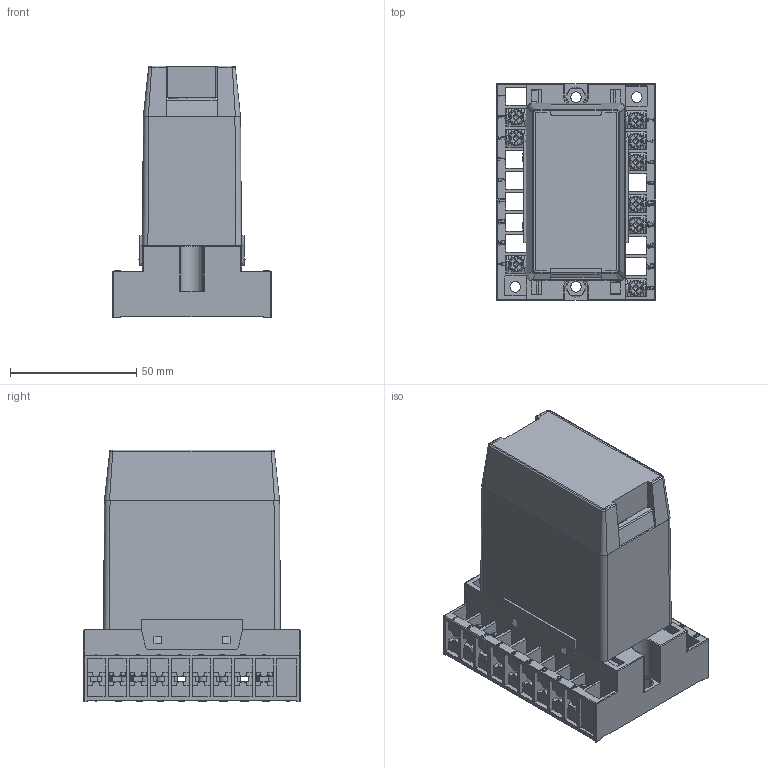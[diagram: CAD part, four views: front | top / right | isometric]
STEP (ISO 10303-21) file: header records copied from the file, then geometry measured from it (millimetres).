
FILE_DESCRIPTION(('STEP AP242'), '1');
FILE_NAME('ÐÑÂ18 (Ñáîðêà)', '', ('UNSPECIFIED'), ('UNSPECIFIED'), 'ASCON STEP Converter 1.6', 'ASCON Math Kernel', '');
FILE_SCHEMA(('AP242_MANAGED_MODEL_BASED_3D_ENGINEERING_MIM_LF { 1 0 10303 442 1 1 4 }'));
Length unit declared in the file: millimetre
Assembly tree (2 placements, depth 2):
  (unnamed)
    (unnamed)
    (unnamed)
Bounding box: 63 x 85.4 x 99.5 mm (x, y, z)
Volume: 66713.4 mm3; surface area: 87858.1 mm2
Topology: 4 solids, 4 shells, 5920 faces, 17296 edges, 11351 vertices
Faces by surface type: plane 2956, cylinder 2497, bspline 326, cone 82, torus 51, sphere 8
Full cylindrical faces by diameter (mm): 2 x9, 2.45 x9, 3 x18, 3.7 x2, 4.2 x4, 7 x2, 8 x2, 18.8 x2
Entity records: 267243 total; most frequent: CARTESIAN_POINT 62170, ORIENTED_EDGE 34386, DIRECTION 31926, EDGE_CURVE 17193, VERTEX_POINT 11351, LINE 10874, VECTOR 10874, AXIS2_PLACEMENT_3D 10526
